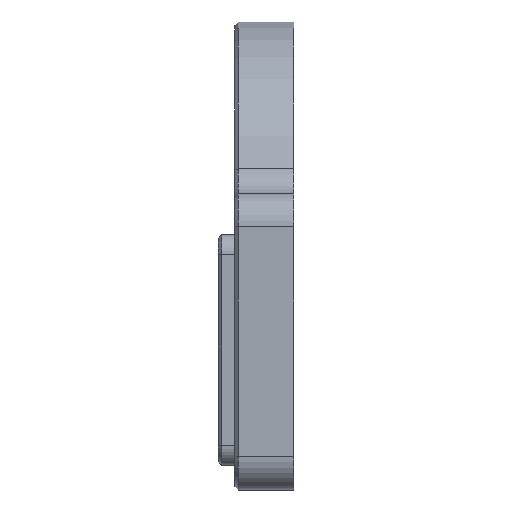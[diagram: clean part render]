
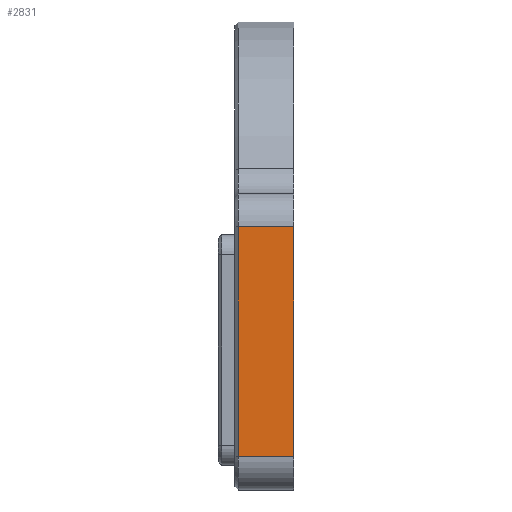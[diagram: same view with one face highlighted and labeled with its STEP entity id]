
A CAD part, left-side view. The second image highlights one B-rep face of the part: STEP entity #2831.
In plain terms, the highlighted planar face has unit normal (-1, 0, 0).
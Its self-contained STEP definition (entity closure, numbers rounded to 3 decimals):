
#505=DIRECTION('',(0.,0.,1.));
#506=VECTOR('',#505,34.4);
#507=CARTESIAN_POINT('',(-47.3,-0.5,
-16.));
#508=LINE('',#507,#506);
#512=DIRECTION('',(0.,1.,0.));
#513=VECTOR('',#512,8.3);
#514=CARTESIAN_POINT('',(-47.3,-8.8,18.4));
#515=LINE('',#514,#513);
#519=DIRECTION('',(0.,1.,0.));
#520=VECTOR('',#519,8.3);
#521=CARTESIAN_POINT('',(-47.3,-8.8,-16.));
#522=LINE('',#521,#520);
#828=DIRECTION('',(0.,0.,-1.));
#829=VECTOR('',#828,34.4);
#830=CARTESIAN_POINT('',(-47.3,-8.8,18.4));
#831=LINE('',#830,#829);
#2200=CARTESIAN_POINT('',(-47.3,-8.8,18.4));
#2202=VERTEX_POINT('',#2200);
#2203=CARTESIAN_POINT('',(-47.3,-8.8,-16.));
#2205=VERTEX_POINT('',#2203);
#2287=CARTESIAN_POINT('',(-47.3,-0.5,18.4));
#2289=VERTEX_POINT('',#2287);
#2329=CARTESIAN_POINT('',(-47.3,-0.5,-16.));
#2330=VERTEX_POINT('',#2329);
#2817=CARTESIAN_POINT('',(-47.3,0.,23.4));
#2818=DIRECTION('',(-1.,0.,0.));
#2819=DIRECTION('',(0.,0.,-1.));
#2820=AXIS2_PLACEMENT_3D('',#2817,#2818,#2819);
#2821=PLANE('',#2820);
#2822=ORIENTED_EDGE('',*,*,#2811,.T.);
#2824=ORIENTED_EDGE('',*,*,#2823,.F.);
#2826=ORIENTED_EDGE('',*,*,#2825,.T.);
#2828=ORIENTED_EDGE('',*,*,#2827,.T.);
#2829=EDGE_LOOP('',(#2822,#2824,#2826,#2828));
#2830=FACE_OUTER_BOUND('',#2829,.F.);
#2811=EDGE_CURVE('',#2330,#2289,#508,.T.);
#2823=EDGE_CURVE('',#2202,#2289,#515,.T.);
#2825=EDGE_CURVE('',#2202,#2205,#831,.T.);
#2827=EDGE_CURVE('',#2205,#2330,#522,.T.);
#2831=ADVANCED_FACE('',(#2830),#2821,.T.);
